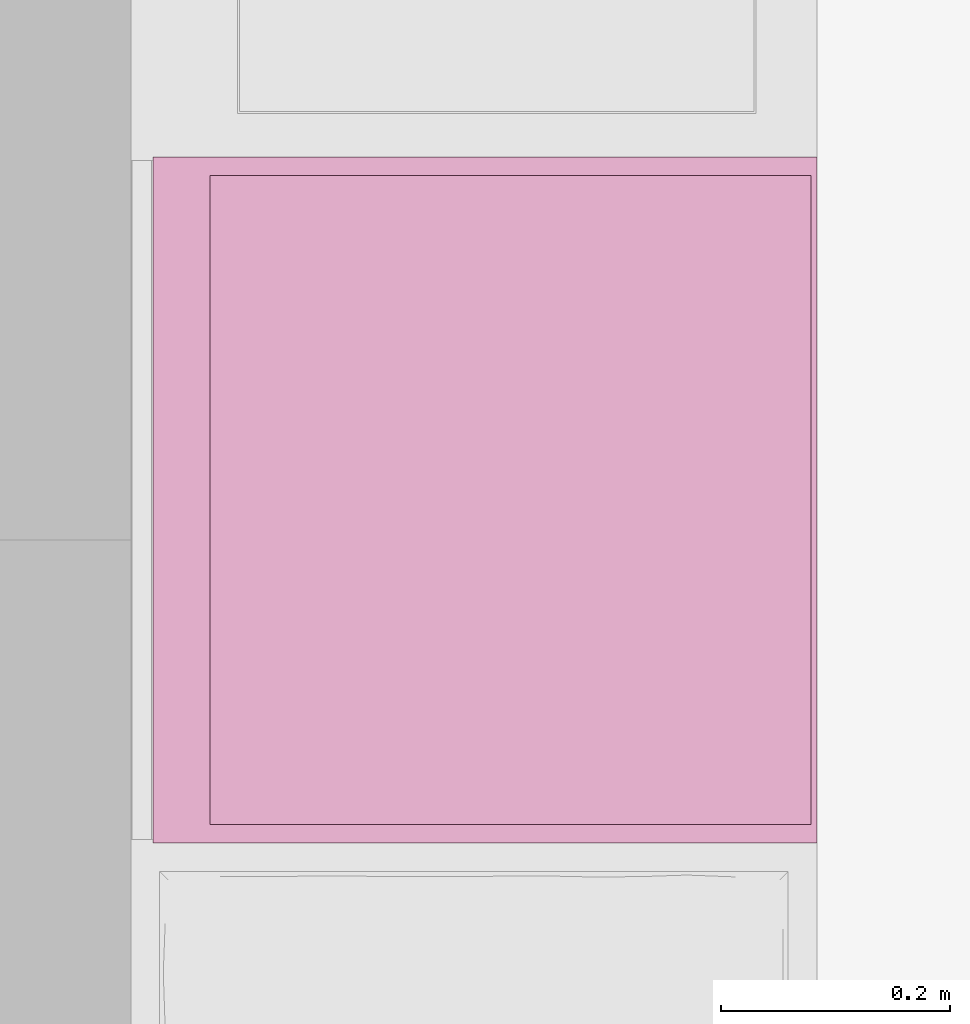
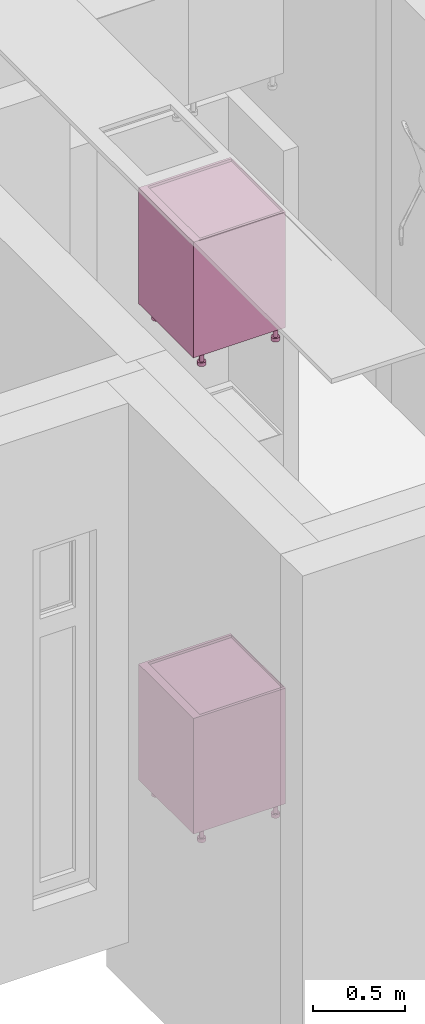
# One storey, part 58 of 125: 2 furnishings.
"""IFC2X3 building model written with IfcOpenShell, lengths in millimetres."""

from ifc_helpers import new_model, entity, si_unit, converted_unit, direction, frame, origin, place, context, subcontext, project, spatial, faceted_brep, source, transform, mapped, material, type_object, type_shapes, element, save


model = new_model("IFC2X3")

# Units and contexts
model_context = context("Model", 3, precision=0.01, world=origin(), true_north=direction((6.123233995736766e-17, 1.0)))
plan_context = context("Plan", 3, precision=0.01, world=origin(), true_north=direction((6.123233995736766e-17, 1.0)))
body_context = subcontext(model_context, "Body", "Model", "MODEL_VIEW")
ifc_project = project(units=[si_unit("LENGTHUNIT", "METRE", prefix="MILLI"), converted_unit("PLANEANGLEUNIT", "DEGREE", entity("IfcPlaneAngleMeasure", 0.017453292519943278), si_unit("PLANEANGLEUNIT", "RADIAN"), dimensions=[0, 0, 0, 0, 0, 0, 0]), si_unit("AREAUNIT", "SQUARE_METRE")], contexts=[model_context, plan_context])

# Site, building, storey, space
site_placement = place(None, origin())
site = spatial("IfcSite", under=ifc_project, at=site_placement, Name="Default", CompositionType="ELEMENT")
building_placement = place(site_placement, origin())
building = spatial("IfcBuilding", under=site, at=building_placement, CompositionType="ELEMENT")
storey_placement = place(building_placement, frame((0.0, 0.0, 3125.0)))
storey = spatial("IfcBuildingStorey", under=building, at=storey_placement, Name="2K", CompositionType="ELEMENT", Elevation=3125.0)
space_placement = place(storey_placement, origin())
space = spatial("IfcSpace", under=storey, at=space_placement, Name="2-4.2", CompositionType="ELEMENT", InteriorOrExteriorSpace="INTERNAL")

# Furnishings
ifc_material = material(Name="<Unnamed>")
furniture_type = type_object("IfcFurnitureType", Name="HR_Casework_Kitchen_Generic_Appliance_v1:Dishwasher", AssemblyPlace="NOTDEFINED", material=ifc_material)
shared_shape = source(origin(), body_context, "Body", "Brep", [
    faceted_brep([(305.7003264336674, -585.7846096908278, -3101.0), (310.6708891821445, -581.9705627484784, -3101.0), (300.70032643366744, -577.1243556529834, -3101.0), (297.32379306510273, -578.5229615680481, -3101.0), (299.91198351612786, -588.1822198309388, -3101.0), (303.59982137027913, -574.8994949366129, -3101.0), (314.4849361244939, -577.0, -3101.0), (305.82468208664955, -572.0, -3101.0), (307.2232880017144, -568.6234666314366, -3101.0), (316.8825462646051, -571.2116570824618, -3101.0), (307.70032643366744, -565.0, -3101.0), (317.7003264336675, -565.0, -3101.0), (307.2232880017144, -561.3765333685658, -3101.0), (316.88254626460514, -558.7883429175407, -3101.0), (305.82468208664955, -558.0, -3101.0), (314.484936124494, -553.0, -3101.0), (303.59982137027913, -555.1005050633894, -3101.0), (310.67088918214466, -548.0294372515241, -3101.0), (300.70032643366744, -552.875644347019, -3101.0), (305.7003264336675, -544.2153903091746, -3101.0), (297.32379306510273, -551.4770384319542, -3101.0), (299.91198351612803, -541.8177801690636, -3101.0), (293.7003264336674, -551.0, -3101.0), (293.70032643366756, -541.0, -3101.0), (290.07685980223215, -551.4770384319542, -3101.0), (287.488669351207, -541.8177801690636, -3101.0), (286.70032643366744, -552.875644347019, -3101.0), (281.7003264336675, -544.2153903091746, -3101.0), (283.80083149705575, -555.1005050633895, -3101.0), (276.7297636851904, -548.029437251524, -3101.0), (281.5759707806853, -558.0, -3101.0), (272.91571674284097, -553.0, -3101.0), (270.51810660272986, -558.7883429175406, -3101.0), (280.1773648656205, -561.3765333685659, -3101.0), (269.7003264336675, -565.0, -3101.0), (279.7003264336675, -565.0, -3101.0), (270.51810660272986, -571.2116570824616, -3101.0), (280.1773648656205, -568.6234666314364, -3101.0), (272.9157167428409, -577.0, -3101.0), (281.57597078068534, -572.0, -3101.0), (276.7297636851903, -581.9705627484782, -3101.0), (283.80083149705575, -574.8994949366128, -3101.0), (281.70032643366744, -585.7846096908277, -3101.0), (286.70032643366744, -577.1243556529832, -3101.0), (287.4886693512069, -588.1822198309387, -3101.0), (290.07685980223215, -578.5229615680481, -3101.0), (293.7003264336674, -589.0, -3101.0), (293.70032643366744, -579.0, -3101.0), (299.91198351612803, -541.8177801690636, -3125.0), (305.7003264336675, -544.2153903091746, -3125.0), (310.67088918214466, -548.0294372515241, -3125.0), (314.484936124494, -553.0, -3125.0), (316.88254626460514, -558.7883429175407, -3125.0), (317.7003264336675, -565.0, -3125.0), (316.8825462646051, -571.2116570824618, -3125.0), (314.4849361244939, -577.0, -3125.0), (310.6708891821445, -581.9705627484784, -3125.0), (305.7003264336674, -585.7846096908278, -3125.0), (299.91198351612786, -588.1822198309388, -3125.0), (293.7003264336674, -589.0, -3125.0), (287.4886693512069, -588.1822198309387, -3125.0), (281.70032643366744, -585.7846096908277, -3125.0), (276.7297636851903, -581.9705627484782, -3125.0), (272.9157167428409, -577.0, -3125.0), (270.51810660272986, -571.2116570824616, -3125.0), (269.7003264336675, -565.0, -3125.0), (270.51810660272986, -558.7883429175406, -3125.0), (272.91571674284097, -553.0, -3125.0), (276.7297636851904, -548.029437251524, -3125.0), (281.7003264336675, -544.2153903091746, -3125.0), (287.488669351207, -541.8177801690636, -3125.0), (293.70032643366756, -541.0, -3125.0), (297.32379306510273, -578.5229615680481, -3025.0), (300.70032643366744, -577.1243556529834, -3025.0), (303.59982137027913, -574.8994949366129, -3025.0), (305.8246820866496, -572.0, -3025.0), (307.2232880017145, -568.6234666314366, -3025.0), (307.70032643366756, -565.0, -3025.0), (307.2232880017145, -561.3765333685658, -3025.0), (305.8246820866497, -558.0, -3025.0), (303.5998213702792, -555.1005050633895, -3025.0), (300.70032643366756, -552.875644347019, -3025.0), (297.32379306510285, -551.4770384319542, -3025.0), (293.70032643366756, -551.0, -3025.0), (290.07685980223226, -551.4770384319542, -3025.0), (286.70032643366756, -552.875644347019, -3025.0), (283.80083149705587, -555.1005050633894, -3025.0), (281.5759707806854, -558.0, -3025.0), (280.1773648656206, -561.3765333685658, -3025.0), (279.70032643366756, -565.0, -3025.0), (280.1773648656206, -568.6234666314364, -3025.0), (281.5759707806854, -572.0, -3025.0), (283.8008314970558, -574.8994949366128, -3025.0), (286.7003264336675, -577.1243556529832, -3025.0), (290.07685980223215, -578.5229615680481, -3025.0), (293.70032643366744, -579.0, -3025.0)], [[[0, 1, 2]], [[0, 2, 3]], [[3, 4, 0]], [[2, 1, 5]], [[6, 5, 1]], [[7, 5, 6]], [[8, 7, 6]], [[8, 6, 9]], [[8, 9, 10]], [[10, 9, 11]], [[12, 10, 11]], [[12, 11, 13]], [[14, 12, 13]], [[14, 13, 15]], [[16, 14, 15]], [[15, 17, 16]], [[17, 18, 16]], [[18, 17, 19]], [[18, 19, 20]], [[21, 20, 19]], [[20, 21, 22]], [[22, 21, 23]], [[23, 24, 22]], [[24, 23, 25]], [[24, 25, 26]], [[27, 26, 25]], [[27, 28, 26]], [[27, 29, 28]], [[30, 28, 29]], [[31, 30, 29]], [[32, 30, 31]], [[33, 30, 32]], [[33, 32, 34]], [[34, 35, 33]], [[36, 35, 34]], [[36, 37, 35]], [[37, 36, 38]], [[39, 37, 38]], [[39, 38, 40]], [[39, 40, 41]], [[40, 42, 41]], [[41, 42, 43]], [[43, 42, 44]], [[44, 45, 43]], [[46, 45, 44]], [[4, 47, 46]], [[45, 46, 47]], [[4, 3, 47]], [[48, 49, 50, 51, 52, 53, 54, 55, 56, 57, 58, 59, 60, 61, 62, 63, 64, 65, 66, 67, 68, 69, 70, 71]], [[64, 36, 34, 65]], [[63, 38, 36, 64]], [[42, 40, 62, 61]], [[63, 62, 40, 38]], [[44, 42, 61, 60]], [[46, 44, 60, 59]], [[58, 4, 46, 59]], [[57, 0, 4, 58]], [[54, 53, 11, 9]], [[1, 0, 57, 56]], [[6, 55, 54, 9]], [[6, 1, 56, 55]], [[52, 13, 11, 53]], [[51, 15, 13, 52]], [[19, 17, 50, 49]], [[51, 50, 17, 15]], [[21, 19, 49, 48]], [[23, 21, 48, 71]], [[27, 69, 68, 29]], [[31, 67, 66, 32]], [[68, 67, 31, 29]], [[32, 66, 65, 34]], [[25, 70, 69, 27]], [[70, 25, 23, 71]], [[72, 73, 74, 75, 76, 77, 78, 79, 80, 81, 82, 83, 84, 85, 86, 87, 88, 89, 90, 91, 92, 93, 94, 95]], [[37, 39, 91, 90]], [[35, 37, 90, 89]], [[43, 45, 94, 93]], [[41, 43, 93, 92]], [[39, 41, 92, 91]], [[47, 95, 94, 45]], [[2, 5, 74, 73]], [[3, 2, 73, 72]], [[8, 10, 77, 76]], [[7, 8, 76, 75]], [[5, 7, 75, 74]], [[3, 72, 95, 47]], [[79, 78, 12, 14]], [[78, 77, 10, 12]], [[80, 16, 18, 81]], [[16, 80, 79, 14]], [[81, 18, 20, 82]], [[22, 83, 82, 20]], [[26, 28, 86, 85]], [[24, 26, 85, 84]], [[33, 35, 89, 88]], [[30, 33, 88, 87]], [[28, 30, 87, 86]], [[24, 84, 83, 22]]]),
    faceted_brep([(-192.29967356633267, -585.7846096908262, -3101.0), (-187.3291108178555, -581.9705627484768, -3101.0), (-197.29967356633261, -577.1243556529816, -3101.0), (-200.67620693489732, -578.5229615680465, -3101.0), (-198.08801648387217, -588.1822198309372, -3101.0), (-194.40017862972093, -574.8994949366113, -3101.0), (-183.51506387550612, -577.0, -3101.0), (-192.17531791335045, -572.0, -3101.0), (-190.77671199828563, -568.6234666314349, -3101.0), (-181.11745373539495, -571.2116570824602, -3101.0), (-190.29967356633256, -565.0, -3101.0), (-180.29967356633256, -565.0, -3101.0), (-190.77671199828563, -561.3765333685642, -3101.0), (-181.11745373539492, -558.788342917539, -3101.0), (-192.17531791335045, -558.0, -3101.0), (-183.515063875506, -553.0, -3101.0), (-194.40017862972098, -555.1005050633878, -3101.0), (-187.3291108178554, -548.0294372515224, -3101.0), (-197.29967356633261, -552.8756443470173, -3101.0), (-192.29967356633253, -544.215390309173, -3101.0), (-200.67620693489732, -551.4770384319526, -3101.0), (-198.08801648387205, -541.8177801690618, -3101.0), (-204.29967356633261, -551.0, -3101.0), (-204.29967356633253, -541.0, -3101.0), (-207.92314019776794, -551.4770384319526, -3101.0), (-210.51133064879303, -541.8177801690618, -3101.0), (-211.29967356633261, -552.8756443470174, -3101.0), (-216.29967356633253, -544.215390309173, -3101.0), (-214.19916850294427, -555.1005050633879, -3101.0), (-221.27023631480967, -548.0294372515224, -3101.0), (-216.42402921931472, -558.0, -3101.0), (-225.08428325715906, -553.0, -3101.0), (-227.48189339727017, -558.788342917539, -3101.0), (-217.8226351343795, -561.3765333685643, -3101.0), (-228.2996735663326, -565.0, -3101.0), (-218.29967356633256, -565.0, -3101.0), (-227.48189339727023, -571.21165708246, -3101.0), (-217.8226351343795, -568.6234666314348, -3101.0), (-225.08428325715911, -577.0, -3101.0), (-216.42402921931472, -572.0, -3101.0), (-221.27023631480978, -581.9705627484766, -3101.0), (-214.19916850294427, -574.8994949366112, -3101.0), (-216.29967356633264, -585.784609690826, -3101.0), (-211.29967356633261, -577.1243556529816, -3101.0), (-210.51133064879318, -588.1822198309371, -3101.0), (-207.9231401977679, -578.5229615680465, -3101.0), (-204.2996735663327, -589.0, -3101.0), (-204.29967356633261, -579.0, -3101.0), (-198.08801648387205, -541.8177801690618, -3125.0), (-192.29967356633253, -544.215390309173, -3125.0), (-187.3291108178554, -548.0294372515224, -3125.0), (-183.515063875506, -553.0, -3125.0), (-181.11745373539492, -558.788342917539, -3125.0), (-180.29967356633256, -565.0, -3125.0), (-181.11745373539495, -571.2116570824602, -3125.0), (-183.51506387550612, -577.0, -3125.0), (-187.3291108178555, -581.9705627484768, -3125.0), (-192.29967356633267, -585.7846096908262, -3125.0), (-198.08801648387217, -588.1822198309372, -3125.0), (-204.2996735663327, -589.0, -3125.0), (-210.51133064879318, -588.1822198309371, -3125.0), (-216.29967356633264, -585.784609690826, -3125.0), (-221.27023631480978, -581.9705627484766, -3125.0), (-225.08428325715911, -577.0, -3125.0), (-227.48189339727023, -571.21165708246, -3125.0), (-228.2996735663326, -565.0, -3125.0), (-227.48189339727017, -558.788342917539, -3125.0), (-225.08428325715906, -553.0, -3125.0), (-221.27023631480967, -548.0294372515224, -3125.0), (-216.29967356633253, -544.215390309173, -3125.0), (-210.51133064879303, -541.8177801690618, -3125.0), (-204.29967356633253, -541.0, -3125.0), (-200.67620693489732, -578.5229615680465, -3025.0), (-197.29967356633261, -577.1243556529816, -3025.0), (-194.40017862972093, -574.8994949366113, -3025.0), (-192.17531791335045, -572.0, -3025.0), (-190.77671199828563, -568.6234666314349, -3025.0), (-190.29967356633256, -565.0, -3025.0), (-190.77671199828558, -561.3765333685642, -3025.0), (-192.1753179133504, -558.0, -3025.0), (-194.40017862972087, -555.1005050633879, -3025.0), (-197.29967356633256, -552.8756443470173, -3025.0), (-200.67620693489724, -551.4770384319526, -3025.0), (-204.29967356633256, -551.0, -3025.0), (-207.92314019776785, -551.4770384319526, -3025.0), (-211.29967356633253, -552.8756443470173, -3025.0), (-214.1991685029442, -555.1005050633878, -3025.0), (-216.4240292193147, -558.0, -3025.0), (-217.8226351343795, -561.3765333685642, -3025.0), (-218.29967356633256, -565.0, -3025.0), (-217.8226351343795, -568.6234666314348, -3025.0), (-216.42402921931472, -572.0, -3025.0), (-214.19916850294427, -574.8994949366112, -3025.0), (-211.2996735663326, -577.1243556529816, -3025.0), (-207.9231401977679, -578.5229615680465, -3025.0), (-204.29967356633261, -579.0, -3025.0)], [[[0, 1, 2]], [[0, 2, 3]], [[3, 4, 0]], [[2, 1, 5]], [[6, 5, 1]], [[7, 5, 6]], [[8, 7, 6]], [[8, 6, 9]], [[8, 9, 10]], [[10, 9, 11]], [[12, 10, 11]], [[12, 11, 13]], [[14, 12, 13]], [[14, 13, 15]], [[16, 14, 15]], [[15, 17, 16]], [[17, 18, 16]], [[18, 17, 19]], [[18, 19, 20]], [[21, 20, 19]], [[20, 21, 22]], [[22, 21, 23]], [[23, 24, 22]], [[24, 23, 25]], [[24, 25, 26]], [[27, 26, 25]], [[27, 28, 26]], [[27, 29, 28]], [[30, 28, 29]], [[31, 30, 29]], [[32, 30, 31]], [[33, 30, 32]], [[33, 32, 34]], [[34, 35, 33]], [[36, 35, 34]], [[36, 37, 35]], [[37, 36, 38]], [[39, 37, 38]], [[39, 38, 40]], [[39, 40, 41]], [[40, 42, 41]], [[41, 42, 43]], [[43, 42, 44]], [[44, 45, 43]], [[46, 45, 44]], [[4, 47, 46]], [[45, 46, 47]], [[4, 3, 47]], [[48, 49, 50, 51, 52, 53, 54, 55, 56, 57, 58, 59, 60, 61, 62, 63, 64, 65, 66, 67, 68, 69, 70, 71]], [[64, 36, 34, 65]], [[63, 38, 36, 64]], [[42, 40, 62, 61]], [[63, 62, 40, 38]], [[44, 42, 61, 60]], [[46, 44, 60, 59]], [[58, 4, 46, 59]], [[57, 0, 4, 58]], [[54, 53, 11, 9]], [[1, 0, 57, 56]], [[6, 55, 54, 9]], [[6, 1, 56, 55]], [[52, 13, 11, 53]], [[51, 15, 13, 52]], [[19, 17, 50, 49]], [[51, 50, 17, 15]], [[21, 19, 49, 48]], [[23, 21, 48, 71]], [[27, 69, 68, 29]], [[31, 67, 66, 32]], [[68, 67, 31, 29]], [[32, 66, 65, 34]], [[25, 70, 69, 27]], [[70, 25, 23, 71]], [[72, 73, 74, 75, 76, 77, 78, 79, 80, 81, 82, 83, 84, 85, 86, 87, 88, 89, 90, 91, 92, 93, 94, 95]], [[37, 39, 91, 90]], [[35, 37, 90, 89]], [[43, 45, 94, 93]], [[41, 43, 93, 92]], [[39, 41, 92, 91]], [[47, 95, 94, 45]], [[2, 5, 74, 73]], [[3, 2, 73, 72]], [[8, 10, 77, 76]], [[7, 8, 76, 75]], [[5, 7, 75, 74]], [[3, 72, 95, 47]], [[79, 78, 12, 14]], [[78, 77, 10, 12]], [[80, 16, 18, 81]], [[16, 80, 79, 14]], [[81, 18, 20, 82]], [[22, 83, 82, 20]], [[26, 28, 86, 85]], [[24, 26, 85, 84]], [[33, 35, 89, 88]], [[30, 33, 88, 87]], [[28, 30, 87, 86]], [[24, 84, 83, 22]]]),
    faceted_brep([(305.70032643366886, -120.78460969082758, -3101.0), (310.670889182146, -116.97056274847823, -3101.0), (300.7003264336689, -112.12435565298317, -3101.0), (297.3237930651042, -113.52296156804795, -3101.0), (299.91198351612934, -123.18221983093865, -3101.0), (303.5998213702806, -109.8994949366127, -3101.0), (314.48493612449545, -112.0, -3101.0), (305.824682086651, -107.0, -3101.0), (307.2232880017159, -103.62346663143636, -3101.0), (316.88254626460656, -106.21165708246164, -3101.0), (307.700326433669, -100.0, -3101.0), (317.700326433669, -100.0, -3101.0), (307.2232880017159, -96.3765333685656, -3101.0), (316.8825462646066, -93.78834291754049, -3101.0), (305.824682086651, -93.0, -3101.0), (314.4849361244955, -88.0, -3101.0), (303.5998213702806, -90.10050506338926, -3101.0), (310.67088918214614, -83.02943725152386, -3101.0), (300.7003264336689, -87.8756443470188, -3101.0), (305.700326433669, -79.21539030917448, -3101.0), (297.3237930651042, -86.477038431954, -3101.0), (299.9119835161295, -76.81778016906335, -3101.0), (293.70032643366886, -86.0, -3101.0), (293.70032643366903, -76.0, -3101.0), (290.0768598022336, -86.47703843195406, -3101.0), (287.4886693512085, -76.81778016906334, -3101.0), (286.7003264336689, -87.87564434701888, -3101.0), (281.700326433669, -79.21539030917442, -3101.0), (283.8008314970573, -90.10050506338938, -3101.0), (276.72976368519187, -83.0294372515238, -3101.0), (281.5759707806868, -93.0, -3101.0), (272.91571674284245, -88.0, -3101.0), (270.51810660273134, -93.78834291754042, -3101.0), (280.177364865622, -96.37653336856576, -3101.0), (269.700326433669, -100.0, -3101.0), (279.700326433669, -100.0, -3101.0), (270.51810660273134, -106.2116570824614, -3101.0), (280.177364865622, -103.62346663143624, -3101.0), (272.9157167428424, -112.0, -3101.0), (281.5759707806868, -107.0, -3101.0), (276.72976368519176, -116.97056274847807, -3101.0), (283.8008314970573, -109.89949493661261, -3101.0), (281.7003264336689, -120.78460969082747, -3101.0), (286.7003264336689, -112.1243556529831, -3101.0), (287.4886693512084, -123.1822198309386, -3101.0), (290.0768598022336, -113.52296156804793, -3101.0), (293.70032643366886, -124.0, -3101.0), (293.7003264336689, -114.0, -3101.0), (299.9119835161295, -76.81778016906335, -3125.0), (305.700326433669, -79.21539030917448, -3125.0), (310.67088918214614, -83.02943725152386, -3125.0), (314.4849361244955, -88.0, -3125.0), (316.8825462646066, -93.78834291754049, -3125.0), (317.700326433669, -100.0, -3125.0), (316.88254626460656, -106.21165708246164, -3125.0), (314.48493612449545, -112.0, -3125.0), (310.670889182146, -116.97056274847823, -3125.0), (305.70032643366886, -120.78460969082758, -3125.0), (299.91198351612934, -123.18221983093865, -3125.0), (293.70032643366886, -124.0, -3125.0), (287.4886693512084, -123.1822198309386, -3125.0), (281.7003264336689, -120.78460969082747, -3125.0), (276.72976368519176, -116.97056274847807, -3125.0), (272.9157167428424, -112.0, -3125.0), (270.51810660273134, -106.2116570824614, -3125.0), (269.700326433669, -100.0, -3125.0), (270.51810660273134, -93.78834291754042, -3125.0), (272.91571674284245, -88.0, -3125.0), (276.72976368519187, -83.0294372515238, -3125.0), (281.700326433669, -79.21539030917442, -3125.0), (287.4886693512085, -76.81778016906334, -3125.0), (293.70032643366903, -76.0, -3125.0), (297.32379306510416, -113.52296156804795, -3025.0), (300.70032643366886, -112.12435565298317, -3025.0), (303.59982137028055, -109.8994949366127, -3025.0), (305.824682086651, -107.0, -3025.0), (307.22328800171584, -103.62346663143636, -3025.0), (307.700326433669, -100.0, -3025.0), (307.2232880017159, -96.3765333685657, -3025.0), (305.82468208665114, -93.0, -3025.0), (303.5998213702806, -90.10050506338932, -3025.0), (300.700326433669, -87.87564434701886, -3025.0), (297.32379306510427, -86.47703843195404, -3025.0), (293.700326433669, -86.0, -3025.0), (290.0768598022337, -86.47703843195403, -3025.0), (286.700326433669, -87.87564434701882, -3025.0), (283.8008314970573, -90.1005050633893, -3025.0), (281.5759707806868, -93.0, -3025.0), (280.177364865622, -96.37653336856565, -3025.0), (279.700326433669, -100.0, -3025.0), (280.177364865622, -103.62346663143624, -3025.0), (281.5759707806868, -107.0, -3025.0), (283.80083149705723, -109.89949493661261, -3025.0), (286.7003264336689, -112.1243556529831, -3025.0), (290.07685980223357, -113.52296156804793, -3025.0), (293.70032643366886, -114.0, -3025.0)], [[[0, 1, 2]], [[0, 2, 3]], [[3, 4, 0]], [[2, 1, 5]], [[6, 5, 1]], [[7, 5, 6]], [[8, 7, 6]], [[8, 6, 9]], [[8, 9, 10]], [[10, 9, 11]], [[12, 10, 11]], [[12, 11, 13]], [[14, 12, 13]], [[14, 13, 15]], [[16, 14, 15]], [[15, 17, 16]], [[17, 18, 16]], [[18, 17, 19]], [[18, 19, 20]], [[21, 20, 19]], [[20, 21, 22]], [[22, 21, 23]], [[23, 24, 22]], [[24, 23, 25]], [[24, 25, 26]], [[27, 26, 25]], [[27, 28, 26]], [[27, 29, 28]], [[30, 28, 29]], [[31, 30, 29]], [[32, 30, 31]], [[33, 30, 32]], [[33, 32, 34]], [[34, 35, 33]], [[36, 35, 34]], [[36, 37, 35]], [[37, 36, 38]], [[39, 37, 38]], [[39, 38, 40]], [[39, 40, 41]], [[40, 42, 41]], [[41, 42, 43]], [[43, 42, 44]], [[44, 45, 43]], [[46, 45, 44]], [[4, 47, 46]], [[45, 46, 47]], [[4, 3, 47]], [[48, 49, 50, 51, 52, 53, 54, 55, 56, 57, 58, 59, 60, 61, 62, 63, 64, 65, 66, 67, 68, 69, 70, 71]], [[64, 36, 34, 65]], [[63, 38, 36, 64]], [[42, 40, 62, 61]], [[63, 62, 40, 38]], [[44, 42, 61, 60]], [[46, 44, 60, 59]], [[58, 4, 46, 59]], [[57, 0, 4, 58]], [[54, 53, 11, 9]], [[1, 0, 57, 56]], [[6, 55, 54, 9]], [[6, 1, 56, 55]], [[52, 13, 11, 53]], [[51, 15, 13, 52]], [[19, 17, 50, 49]], [[51, 50, 17, 15]], [[21, 19, 49, 48]], [[23, 21, 48, 71]], [[27, 69, 68, 29]], [[31, 67, 66, 32]], [[68, 67, 31, 29]], [[32, 66, 65, 34]], [[25, 70, 69, 27]], [[70, 25, 23, 71]], [[72, 73, 74, 75, 76, 77, 78, 79, 80, 81, 82, 83, 84, 85, 86, 87, 88, 89, 90, 91, 92, 93, 94, 95]], [[37, 39, 91, 90]], [[35, 37, 90, 89]], [[43, 45, 94, 93]], [[41, 43, 93, 92]], [[39, 41, 92, 91]], [[47, 95, 94, 45]], [[2, 5, 74, 73]], [[3, 2, 73, 72]], [[8, 10, 77, 76]], [[7, 8, 76, 75]], [[5, 7, 75, 74]], [[3, 72, 95, 47]], [[79, 78, 12, 14]], [[78, 77, 10, 12]], [[80, 16, 18, 81]], [[16, 80, 79, 14]], [[81, 18, 20, 82]], [[22, 83, 82, 20]], [[26, 28, 86, 85]], [[24, 26, 85, 84]], [[33, 35, 89, 88]], [[30, 33, 88, 87]], [[28, 30, 87, 86]], [[24, 84, 83, 22]]]),
    faceted_brep([(-192.299673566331, -120.78460969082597, -3101.0), (-187.3291108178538, -116.97056274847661, -3101.0), (-197.29967356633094, -112.12435565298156, -3101.0), (-200.67620693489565, -113.52296156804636, -3101.0), (-198.0880164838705, -123.18221983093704, -3101.0), (-194.40017862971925, -109.89949493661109, -3101.0), (-183.5150638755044, -112.0, -3101.0), (-192.17531791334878, -107.0, -3101.0), (-190.77671199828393, -103.62346663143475, -3101.0), (-181.11745373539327, -106.21165708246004, -3101.0), (-190.29967356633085, -100.0, -3101.0), (-180.29967356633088, -100.0, -3101.0), (-190.77671199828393, -96.376533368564, -3101.0), (-181.11745373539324, -93.78834291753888, -3101.0), (-192.17531791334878, -93.0, -3101.0), (-183.51506387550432, -88.0, -3101.0), (-194.40017862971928, -90.10050506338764, -3101.0), (-187.32911081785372, -83.02943725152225, -3101.0), (-197.29967356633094, -87.8756443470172, -3101.0), (-192.29967356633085, -79.21539030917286, -3101.0), (-200.67620693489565, -86.4770384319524, -3101.0), (-198.08801648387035, -76.81778016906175, -3101.0), (-204.29967356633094, -86.0, -3101.0), (-204.29967356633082, -76.0, -3101.0), (-207.92314019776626, -86.47703843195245, -3101.0), (-210.51133064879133, -76.81778016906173, -3101.0), (-211.29967356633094, -87.87564434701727, -3101.0), (-216.29967356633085, -79.21539030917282, -3101.0), (-214.19916850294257, -90.10050506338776, -3101.0), (-221.270236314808, -83.0294372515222, -3101.0), (-216.424029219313, -93.0, -3101.0), (-225.08428325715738, -88.0, -3101.0), (-227.4818933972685, -93.78834291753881, -3101.0), (-217.82263513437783, -96.37653336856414, -3101.0), (-228.29967356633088, -100.0, -3101.0), (-218.29967356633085, -100.0, -3101.0), (-227.48189339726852, -106.2116570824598, -3101.0), (-217.82263513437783, -103.62346663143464, -3101.0), (-225.08428325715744, -112.0, -3101.0), (-216.424029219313, -107.0, -3101.0), (-221.27023631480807, -116.97056274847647, -3101.0), (-214.19916850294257, -109.899494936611, -3101.0), (-216.29967356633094, -120.78460969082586, -3101.0), (-211.29967356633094, -112.12435565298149, -3101.0), (-210.51133064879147, -123.18221983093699, -3101.0), (-207.9231401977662, -113.52296156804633, -3101.0), (-204.299673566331, -124.0, -3101.0), (-204.29967356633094, -114.0, -3101.0), (-198.08801648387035, -76.81778016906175, -3125.0), (-192.29967356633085, -79.21539030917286, -3125.0), (-187.32911081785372, -83.02943725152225, -3125.0), (-183.51506387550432, -88.0, -3125.0), (-181.11745373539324, -93.78834291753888, -3125.0), (-180.29967356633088, -100.0, -3125.0), (-181.11745373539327, -106.21165708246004, -3125.0), (-183.5150638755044, -112.0, -3125.0), (-187.3291108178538, -116.97056274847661, -3125.0), (-192.299673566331, -120.78460969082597, -3125.0), (-198.0880164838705, -123.18221983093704, -3125.0), (-204.299673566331, -124.0, -3125.0), (-210.51133064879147, -123.18221983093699, -3125.0), (-216.29967356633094, -120.78460969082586, -3125.0), (-221.27023631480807, -116.97056274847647, -3125.0), (-225.08428325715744, -112.0, -3125.0), (-227.48189339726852, -106.2116570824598, -3125.0), (-228.29967356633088, -100.0, -3125.0), (-227.4818933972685, -93.78834291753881, -3125.0), (-225.08428325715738, -88.0, -3125.0), (-221.270236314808, -83.0294372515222, -3125.0), (-216.29967356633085, -79.21539030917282, -3125.0), (-210.51133064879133, -76.81778016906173, -3125.0), (-204.29967356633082, -76.0, -3125.0), (-200.67620693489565, -113.52296156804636, -3025.0), (-197.29967356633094, -112.12435565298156, -3025.0), (-194.40017862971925, -109.89949493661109, -3025.0), (-192.17531791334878, -107.0, -3025.0), (-190.77671199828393, -103.62346663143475, -3025.0), (-190.29967356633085, -100.0, -3025.0), (-190.7767119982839, -96.3765333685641, -3025.0), (-192.1753179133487, -93.0, -3025.0), (-194.4001786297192, -90.10050506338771, -3025.0), (-197.29967356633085, -87.87564434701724, -3025.0), (-200.67620693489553, -86.47703843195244, -3025.0), (-204.29967356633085, -86.0, -3025.0), (-207.92314019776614, -86.47703843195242, -3025.0), (-211.29967356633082, -87.87564434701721, -3025.0), (-214.1991685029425, -90.10050506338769, -3025.0), (-216.42402921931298, -93.0, -3025.0), (-217.82263513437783, -96.37653336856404, -3025.0), (-218.29967356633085, -100.0, -3025.0), (-217.82263513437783, -103.62346663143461, -3025.0), (-216.424029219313, -107.0, -3025.0), (-214.19916850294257, -109.899494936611, -3025.0), (-211.29967356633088, -112.12435565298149, -3025.0), (-207.9231401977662, -113.52296156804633, -3025.0), (-204.29967356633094, -114.0, -3025.0)], [[[0, 1, 2]], [[0, 2, 3]], [[3, 4, 0]], [[2, 1, 5]], [[6, 5, 1]], [[7, 5, 6]], [[8, 7, 6]], [[8, 6, 9]], [[8, 9, 10]], [[10, 9, 11]], [[12, 10, 11]], [[12, 11, 13]], [[14, 12, 13]], [[14, 13, 15]], [[16, 14, 15]], [[15, 17, 16]], [[17, 18, 16]], [[18, 17, 19]], [[18, 19, 20]], [[21, 20, 19]], [[20, 21, 22]], [[22, 21, 23]], [[23, 24, 22]], [[24, 23, 25]], [[24, 25, 26]], [[27, 26, 25]], [[27, 28, 26]], [[27, 29, 28]], [[30, 28, 29]], [[31, 30, 29]], [[32, 30, 31]], [[33, 30, 32]], [[33, 32, 34]], [[34, 35, 33]], [[36, 35, 34]], [[36, 37, 35]], [[37, 36, 38]], [[39, 37, 38]], [[39, 38, 40]], [[39, 40, 41]], [[40, 42, 41]], [[41, 42, 43]], [[43, 42, 44]], [[44, 45, 43]], [[46, 45, 44]], [[4, 47, 46]], [[45, 46, 47]], [[4, 3, 47]], [[48, 49, 50, 51, 52, 53, 54, 55, 56, 57, 58, 59, 60, 61, 62, 63, 64, 65, 66, 67, 68, 69, 70, 71]], [[64, 36, 34, 65]], [[63, 38, 36, 64]], [[42, 40, 62, 61]], [[63, 62, 40, 38]], [[44, 42, 61, 60]], [[46, 44, 60, 59]], [[58, 4, 46, 59]], [[57, 0, 4, 58]], [[54, 53, 11, 9]], [[1, 0, 57, 56]], [[6, 55, 54, 9]], [[6, 1, 56, 55]], [[52, 13, 11, 53]], [[51, 15, 13, 52]], [[19, 17, 50, 49]], [[51, 50, 17, 15]], [[21, 19, 49, 48]], [[23, 21, 48, 71]], [[27, 69, 68, 29]], [[31, 67, 66, 32]], [[68, 67, 31, 29]], [[32, 66, 65, 34]], [[25, 70, 69, 27]], [[70, 25, 23, 71]], [[72, 73, 74, 75, 76, 77, 78, 79, 80, 81, 82, 83, 84, 85, 86, 87, 88, 89, 90, 91, 92, 93, 94, 95]], [[37, 39, 91, 90]], [[35, 37, 90, 89]], [[43, 45, 94, 93]], [[41, 43, 93, 92]], [[39, 41, 92, 91]], [[47, 95, 94, 45]], [[2, 5, 74, 73]], [[3, 2, 73, 72]], [[8, 10, 77, 76]], [[7, 8, 76, 75]], [[5, 7, 75, 74]], [[3, 72, 95, 47]], [[79, 78, 12, 14]], [[78, 77, 10, 12]], [[80, 16, 18, 81]], [[16, 80, 79, 14]], [[81, 18, 20, 82]], [[22, 83, 82, 20]], [[26, 28, 86, 85]], [[24, 26, 85, 84]], [[33, 35, 89, 88]], [[30, 33, 88, 87]], [[28, 30, 87, 86]], [[24, 84, 83, 22]]]),
    faceted_brep([(328.70032643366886, -19.0, -3009.0), (-239.2996735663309, -19.0, -3009.0), (-239.29967356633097, -595.0, -3009.0), (328.70032643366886, -595.0, -3009.0), (328.70032643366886, -19.0, -3025.0), (328.70032643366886, -595.0, -3025.0), (-239.29967356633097, -595.0, -3025.0), (-239.29967356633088, -19.0, -3025.0)], [[[0, 1, 2, 3]], [[4, 5, 6, 7]], [[1, 0, 4, 7]], [[2, 1, 7, 6]], [[3, 2, 6, 5]], [[0, 3, 5, 4]]]),
    faceted_brep([(-255.29967356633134, -19.0, -2255.0), (-255.2996735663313, -600.0, -2255.0), (344.7003264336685, -600.0, -2255.0), (344.7003264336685, -19.0, -2255.0), (328.70032643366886, -19.0, -2255.0), (328.70032643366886, -595.0, -2255.0), (-239.2996735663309, -595.0, -2255.0), (-239.2996735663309, -19.0, -2255.0), (-255.29967356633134, -19.0, -3025.0), (-239.2996735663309, -19.0, -3025.0), (-239.29967356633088, -595.0, -3025.0), (328.70032643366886, -595.0, -3025.0), (328.70032643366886, -19.0, -3025.0), (344.7003264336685, -19.0, -3025.0), (344.7003264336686, -600.0, -3025.0), (-255.2996735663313, -600.0, -3025.0)], [[[0, 1, 2, 3, 4, 5, 6, 7]], [[8, 9, 10, 11, 12, 13, 14, 15]], [[1, 0, 8, 15]], [[0, 7, 9, 8]], [[7, 6, 10, 9]], [[5, 4, 12, 11]], [[4, 3, 13, 12]], [[3, 2, 14, 13]], [[2, 1, 15, 14]], [[6, 5, 11, 10]]]),
    faceted_brep([(328.70032643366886, -69.0, -2255.0), (328.70032643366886, -19.0, -2255.0), (-239.29967356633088, -19.0, -2255.0), (-239.29967356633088, -69.0, -2255.0), (328.70032643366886, -69.0, -2271.0), (-239.29967356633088, -69.0, -2271.0), (-239.29967356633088, -19.0, -2271.0), (328.70032643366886, -19.0, -2271.0)], [[[0, 1, 2, 3]], [[4, 5, 6, 7]], [[0, 3, 5, 4]], [[3, 2, 6, 5]], [[2, 1, 7, 6]], [[1, 0, 4, 7]]]),
    faceted_brep([(328.7003264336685, -19.0, -2271.0), (-239.29967356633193, -19.0, -2271.0), (-239.2996735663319, -595.0, -2271.0), (328.7003264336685, -595.0, -2271.0), (328.7003264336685, -19.0, -3009.0), (328.7003264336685, -595.0, -3009.0), (-239.2996735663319, -595.0, -3009.0), (-239.2996735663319, -19.0, -3009.0)], [[[0, 1, 2, 3]], [[4, 5, 6, 7]], [[1, 0, 4, 7]], [[2, 1, 7, 6]], [[3, 2, 6, 5]], [[0, 3, 5, 4]]]),
])
type_shapes(furniture_type, [shared_shape])
for number, where, z_axis, x_axis, name in (
    (1, (5300.0, 1795.299673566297, 3125.0), (0.0, 0.0, 1.0), (0.0, 1.0, 0.0), "HR_Casework_Kitchen_Generic_Appliance_v1:Dishwasher"),
    (2, (5300.0, 1795.299673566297, 6295.0), (0.0, 0.0, 1.0), (0.0, 1.0, 0.0), "HR_Casework_Kitchen_Generic_Appliance_v1:Dishwasher"),
):
    element("IfcFurnishingElement", number, at=place(space_placement, frame(where, z_axis=z_axis, x_axis=x_axis)), inside=space, type_object=furniture_type, material=ifc_material, Name=name, ObjectType="HR_Casework_Kitchen_Generic_Appliance_v1:Dishwasher", context=body_context, shape_type="MappedRepresentation", body=[
        mapped(shared_shape, transform((0.0, 0.0, 0.0), scale=1.0)),
    ])

save(model, "model.ifc")
